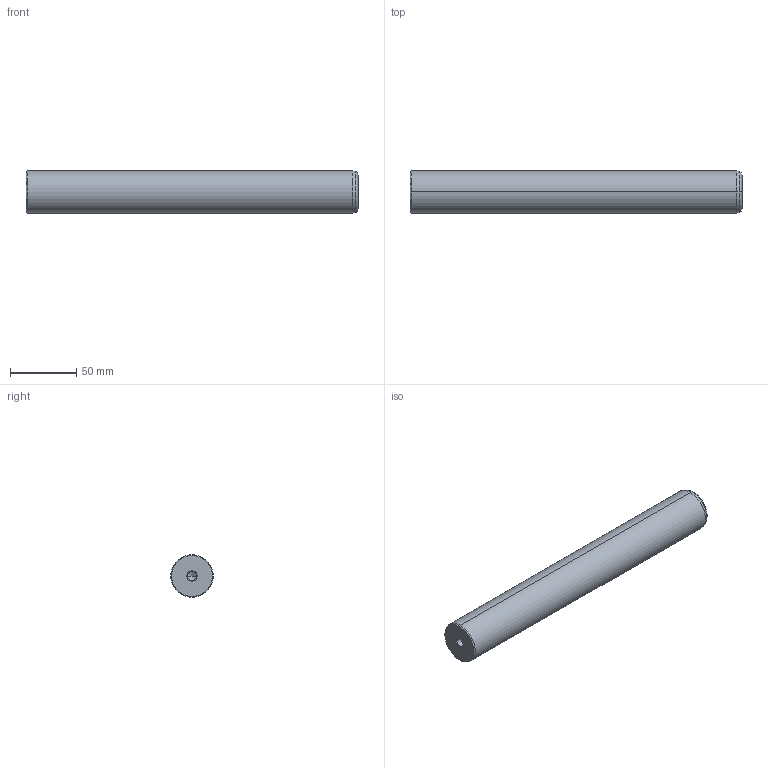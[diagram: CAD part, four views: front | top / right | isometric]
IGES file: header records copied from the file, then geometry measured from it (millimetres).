
Start section: START RECORD GO HERE.
Global section: file name: 720-32x250.igs; native system: DASSAULT SYSTEMES CATIA V5 R20 - www.3ds.com; preprocessor: CATIA Version 5 Release 20 ; author: Utente; organization: NB04-ASUS; date: 20210101.131607; units: millimetre
Bounding box: 250 x 32 x 32 mm (x, y, z)
Surface area: 27525.5 mm2 (no closed solid volume)
Topology: 0 solids, 0 shells, 22 faces, 108 edges, 104 vertices
Faces by surface type: revolution 20, plane 2
